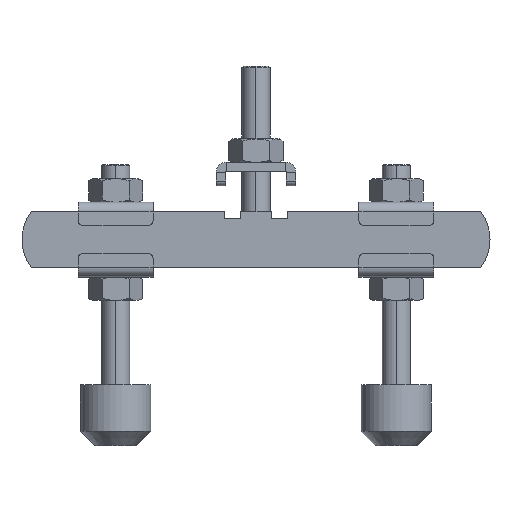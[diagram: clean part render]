
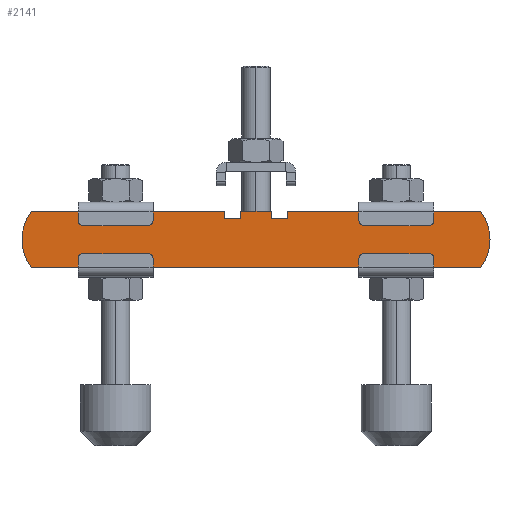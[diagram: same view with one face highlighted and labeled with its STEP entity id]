
A CAD part, top view. The second image highlights one B-rep face of the part: STEP entity #2141.
In plain terms, the highlighted planar face has unit normal (0, 0, 1).
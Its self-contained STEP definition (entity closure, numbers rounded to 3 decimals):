
#101 = CARTESIAN_POINT ( 'NONE',  ( -40., 0., 0. ) ) ;
#190 = FACE_OUTER_BOUND ( 'NONE', #917, .T. ) ;
#203 = LINE ( 'NONE', #205, #3679 ) ;
#205 = CARTESIAN_POINT ( 'NONE',  ( -3.25, 6., 0. ) ) ;
#207 = DIRECTION ( 'NONE',  ( 0., 1., 0. ) ) ;
#233 = PLANE ( 'NONE',  #3722 ) ;
#254 = CARTESIAN_POINT ( 'NONE',  ( 40., 0., 0. ) ) ;
#255 = DIRECTION ( 'NONE',  ( 0., 0., 1. ) ) ;
#256 = DIRECTION ( 'NONE',  ( 0., 0., 1. ) ) ;
#257 = DIRECTION ( 'NONE',  ( -1., 0., 0. ) ) ;
#259 = DIRECTION ( 'NONE',  ( 1., 0., 0. ) ) ;
#373 = LINE ( 'NONE', #390, #3719 ) ;
#386 = DIRECTION ( 'NONE',  ( 0., -1., 0. ) ) ;
#390 = CARTESIAN_POINT ( 'NONE',  ( -6.75, 6., 0. ) ) ;
#434 = DIRECTION ( 'NONE',  ( -1., 0., 0. ) ) ;
#435 = LINE ( 'NONE', #488, #3374 ) ;
#438 = CARTESIAN_POINT ( 'NONE',  ( -48., 6., 0. ) ) ;
#453 = LINE ( 'NONE', #438, #3378 ) ;
#488 = CARTESIAN_POINT ( 'NONE',  ( 3.25, 6., 0. ) ) ;
#495 = DIRECTION ( 'NONE',  ( 0., -1., 0. ) ) ;
#657 = VERTEX_POINT ( 'NONE', #3235 ) ;
#660 = VERTEX_POINT ( 'NONE', #3230 ) ;
#665 = VERTEX_POINT ( 'NONE', #3226 ) ;
#671 = VERTEX_POINT ( 'NONE', #3180 ) ;
#685 = VERTEX_POINT ( 'NONE', #3186 ) ;
#704 = VERTEX_POINT ( 'NONE', #3211 ) ;
#717 = VERTEX_POINT ( 'NONE', #2896 ) ;
#755 = VERTEX_POINT ( 'NONE', #3045 ) ;
#757 = VERTEX_POINT ( 'NONE', #3052 ) ;
#917 = EDGE_LOOP ( 'NONE', ( #2978, #2976, #2977, #2981, #2979, #2980, #2982, #2983, #2984, #2985, #2986, #3001, #3002 ) ) ;
#971 = VERTEX_POINT ( 'NONE', #2913 ) ;
#1096 = VERTEX_POINT ( 'NONE', #2905 ) ;
#1098 = VERTEX_POINT ( 'NONE', #3103 ) ;
#1100 = VERTEX_POINT ( 'NONE', #2906 ) ;
#1298 = CARTESIAN_POINT ( 'NONE',  ( -40., 0., 0. ) ) ;
#1299 = DIRECTION ( 'NONE',  ( 0., 0., 1. ) ) ;
#1300 = DIRECTION ( 'NONE',  ( 1., 0., 0. ) ) ;
#1302 = LINE ( 'NONE', #1316, #3469 ) ;
#1316 = CARTESIAN_POINT ( 'NONE',  ( -48., 6., 0. ) ) ;
#1317 = DIRECTION ( 'NONE',  ( -1., 0., 0. ) ) ;
#1337 = LINE ( 'NONE', #1338, #3472 ) ;
#1338 = CARTESIAN_POINT ( 'NONE',  ( -48., -6., 0. ) ) ;
#1339 = DIRECTION ( 'NONE',  ( 1., 0., 0. ) ) ;
#1357 = DIRECTION ( 'NONE',  ( -1., 0., 0. ) ) ;
#1363 = LINE ( 'NONE', #1369, #3471 ) ;
#1369 = CARTESIAN_POINT ( 'NONE',  ( -48., 6., 0. ) ) ;
#1410 = DIRECTION ( 'NONE',  ( 1., 0., 0. ) ) ;
#1417 = CARTESIAN_POINT ( 'NONE',  ( 6.75, 4.5, 0. ) ) ;
#1512 = LINE ( 'NONE', #1797, #3422 ) ;
#1514 = LINE ( 'NONE', #1417, #3447 ) ;
#1589 = DIRECTION ( 'NONE',  ( -1., 0., 0. ) ) ;
#1640 = DIRECTION ( 'NONE',  ( 0., 0., 1. ) ) ;
#1692 = CARTESIAN_POINT ( 'NONE',  ( 6.75, 6., 0. ) ) ;
#1739 = DIRECTION ( 'NONE',  ( 0., 1., 0. ) ) ;
#1744 = LINE ( 'NONE', #1692, #3429 ) ;
#1778 = DIRECTION ( 'NONE',  ( 1., 0., 0. ) ) ;
#1797 = CARTESIAN_POINT ( 'NONE',  ( -6.75, 4.5, 0. ) ) ;
#1814 = CARTESIAN_POINT ( 'NONE',  ( 40., 0., 0. ) ) ;
#2107 = EDGE_CURVE ( 'NONE', #671, #665, #203, .T. ) ;
#2111 = EDGE_CURVE ( 'NONE', #704, #757, #3682, .T. ) ;
#2141 = ADVANCED_FACE ( 'NONE', ( #190 ), #233, .T. ) ;
#2179 = EDGE_CURVE ( 'NONE', #755, #971, #373, .T. ) ;
#2196 = EDGE_CURVE ( 'NONE', #755, #1096, #453, .T. ) ;
#2203 = EDGE_CURVE ( 'NONE', #657, #1098, #435, .T. ) ;
#2896 = CARTESIAN_POINT ( 'NONE',  ( 6.75, 6., 0. ) ) ;
#2905 = CARTESIAN_POINT ( 'NONE',  ( -48., 6., 0. ) ) ;
#2906 = CARTESIAN_POINT ( 'NONE',  ( 48., -6., 0. ) ) ;
#2913 = CARTESIAN_POINT ( 'NONE',  ( -6.75, 4.5, 0. ) ) ;
#2976 = ORIENTED_EDGE ( 'NONE', *, *, #3535, .F. ) ;
#2977 = ORIENTED_EDGE ( 'NONE', *, *, #2203, .F. ) ;
#2978 = ORIENTED_EDGE ( 'NONE', *, *, #3517, .F. ) ;
#2979 = ORIENTED_EDGE ( 'NONE', *, *, #2107, .F. ) ;
#2980 = ORIENTED_EDGE ( 'NONE', *, *, #3506, .F. ) ;
#2981 = ORIENTED_EDGE ( 'NONE', *, *, #3567, .T. ) ;
#2982 = ORIENTED_EDGE ( 'NONE', *, *, #2179, .F. ) ;
#2983 = ORIENTED_EDGE ( 'NONE', *, *, #2196, .T. ) ;
#2984 = ORIENTED_EDGE ( 'NONE', *, *, #3561, .T. ) ;
#2985 = ORIENTED_EDGE ( 'NONE', *, *, #3558, .T. ) ;
#2986 = ORIENTED_EDGE ( 'NONE', *, *, #3501, .T. ) ;
#3001 = ORIENTED_EDGE ( 'NONE', *, *, #2111, .T. ) ;
#3002 = ORIENTED_EDGE ( 'NONE', *, *, #3555, .T. ) ;
#3045 = CARTESIAN_POINT ( 'NONE',  ( -6.75, 6., 0. ) ) ;
#3052 = CARTESIAN_POINT ( 'NONE',  ( 48., 6., 0. ) ) ;
#3103 = CARTESIAN_POINT ( 'NONE',  ( 3.25, 4.5, 0. ) ) ;
#3180 = CARTESIAN_POINT ( 'NONE',  ( -3.25, 4.5, 0. ) ) ;
#3186 = CARTESIAN_POINT ( 'NONE',  ( -48., -6., 0. ) ) ;
#3211 = CARTESIAN_POINT ( 'NONE',  ( 50., 0., 0. ) ) ;
#3226 = CARTESIAN_POINT ( 'NONE',  ( -3.25, 6., 0. ) ) ;
#3230 = CARTESIAN_POINT ( 'NONE',  ( 6.75, 4.5, 0. ) ) ;
#3235 = CARTESIAN_POINT ( 'NONE',  ( 3.25, 6., 0. ) ) ;
#3374 = VECTOR ( 'NONE', #495, 1000. ) ;
#3378 = VECTOR ( 'NONE', #434, 1000. ) ;
#3417 = CIRCLE ( 'NONE', #3420, 10. ) ;
#3420 = AXIS2_PLACEMENT_3D ( 'NONE', #1814, #1640, #1589 ) ;
#3422 = VECTOR ( 'NONE', #1778, 1000. ) ;
#3429 = VECTOR ( 'NONE', #1739, 1000. ) ;
#3447 = VECTOR ( 'NONE', #1410, 1000. ) ;
#3469 = VECTOR ( 'NONE', #1317, 1000. ) ;
#3471 = VECTOR ( 'NONE', #1357, 1000. ) ;
#3472 = VECTOR ( 'NONE', #1339, 1000. ) ;
#3475 = CIRCLE ( 'NONE', #3477, 10. ) ;
#3477 = AXIS2_PLACEMENT_3D ( 'NONE', #1298, #1299, #1300 ) ;
#3501 = EDGE_CURVE ( 'NONE', #1100, #704, #3417, .T. ) ;
#3506 = EDGE_CURVE ( 'NONE', #971, #671, #1512, .T. ) ;
#3517 = EDGE_CURVE ( 'NONE', #660, #717, #1744, .T. ) ;
#3535 = EDGE_CURVE ( 'NONE', #1098, #660, #1514, .T. ) ;
#3555 = EDGE_CURVE ( 'NONE', #757, #717, #1363, .T. ) ;
#3558 = EDGE_CURVE ( 'NONE', #685, #1100, #1337, .T. ) ;
#3561 = EDGE_CURVE ( 'NONE', #1096, #685, #3475, .T. ) ;
#3567 = EDGE_CURVE ( 'NONE', #657, #665, #1302, .T. ) ;
#3663 = AXIS2_PLACEMENT_3D ( 'NONE', #254, #255, #257 ) ;
#3679 = VECTOR ( 'NONE', #207, 1000. ) ;
#3682 = CIRCLE ( 'NONE', #3663, 10. ) ;
#3719 = VECTOR ( 'NONE', #386, 1000. ) ;
#3722 = AXIS2_PLACEMENT_3D ( 'NONE', #101, #256, #259 ) ;
